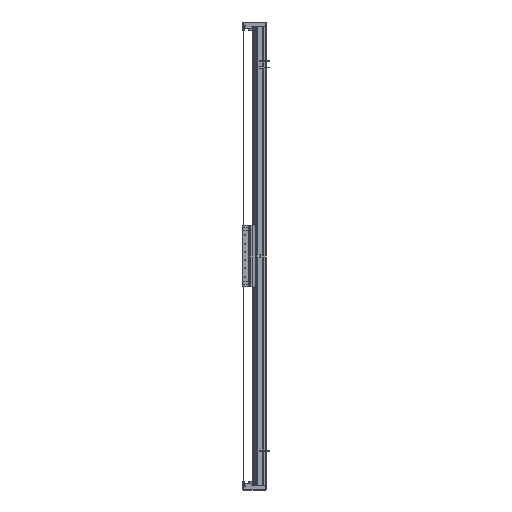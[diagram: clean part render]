
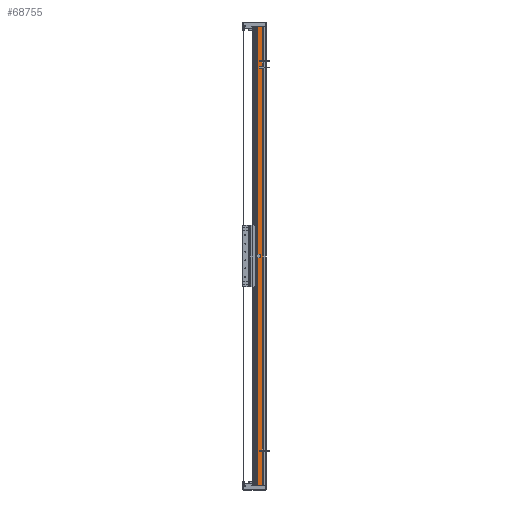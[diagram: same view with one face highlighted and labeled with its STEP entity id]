
A CAD part, left-side view. The second image highlights one B-rep face of the part: STEP entity #68755.
In plain terms, the highlighted planar face has unit normal (-1, 0, 0).
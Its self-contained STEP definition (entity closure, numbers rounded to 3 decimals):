
#4694 = DIRECTION ( 'NONE',  ( 0., 0., -1. ) ) ;
#5059 = VECTOR ( 'NONE', #4694, 1000. ) ;
#6083 = VERTEX_POINT ( 'NONE', #14591 ) ;
#7457 = ORIENTED_EDGE ( 'NONE', *, *, #74023, .T. ) ;
#8018 = CARTESIAN_POINT ( 'NONE',  ( -82.5, 36.95, -930. ) ) ;
#14591 = CARTESIAN_POINT ( 'NONE',  ( -82.5, 14.45, 930. ) ) ;
#15762 = DIRECTION ( 'NONE',  ( 0., -1., 0. ) ) ;
#16959 = AXIS2_PLACEMENT_3D ( 'NONE', #93908, #105316, #96399 ) ;
#23091 = VERTEX_POINT ( 'NONE', #64445 ) ;
#26306 = LINE ( 'NONE', #35792, #5059 ) ;
#30296 = ORIENTED_EDGE ( 'NONE', *, *, #32366, .F. ) ;
#32366 = EDGE_CURVE ( 'NONE', #23091, #6083, #64145, .T. ) ;
#35792 = CARTESIAN_POINT ( 'NONE',  ( -82.5, 14.45, 930. ) ) ;
#44415 = CARTESIAN_POINT ( 'NONE',  ( -82.5, 36.95, 930. ) ) ;
#46489 = ORIENTED_EDGE ( 'NONE', *, *, #71569, .F. ) ;
#49341 = DIRECTION ( 'NONE',  ( 0., 0., -1. ) ) ;
#56416 = CARTESIAN_POINT ( 'NONE',  ( -82.5, 36.95, -930. ) ) ;
#57587 = FACE_OUTER_BOUND ( 'NONE', #112636, .T. ) ;
#62735 = ORIENTED_EDGE ( 'NONE', *, *, #76460, .T. ) ;
#64145 = LINE ( 'NONE', #44415, #91119 ) ;
#64445 = CARTESIAN_POINT ( 'NONE',  ( -82.5, 36.95, 930. ) ) ;
#66536 = PLANE ( 'NONE',  #16959 ) ;
#68755 = ADVANCED_FACE ( 'NONE', ( #57587 ), #66536, .F. ) ;
#70761 = VECTOR ( 'NONE', #15762, 1000. ) ;
#71569 = EDGE_CURVE ( 'NONE', #6083, #111954, #26306, .T. ) ;
#74023 = EDGE_CURVE ( 'NONE', #23091, #79322, #86289, .T. ) ;
#76460 = EDGE_CURVE ( 'NONE', #79322, #111954, #103521, .T. ) ;
#79322 = VERTEX_POINT ( 'NONE', #8018 ) ;
#82602 = DIRECTION ( 'NONE',  ( 0., -1., 0. ) ) ;
#86289 = LINE ( 'NONE', #88170, #88846 ) ;
#88170 = CARTESIAN_POINT ( 'NONE',  ( -82.5, 36.95, 930. ) ) ;
#88846 = VECTOR ( 'NONE', #49341, 1000. ) ;
#91119 = VECTOR ( 'NONE', #82602, 1000. ) ;
#93908 = CARTESIAN_POINT ( 'NONE',  ( -82.5, 36.95, 930. ) ) ;
#96399 = DIRECTION ( 'NONE',  ( 0., 1., 0. ) ) ;
#103401 = CARTESIAN_POINT ( 'NONE',  ( -82.5, 14.45, -930. ) ) ;
#103521 = LINE ( 'NONE', #56416, #70761 ) ;
#105316 = DIRECTION ( 'NONE',  ( 1., 0., 0. ) ) ;
#111954 = VERTEX_POINT ( 'NONE', #103401 ) ;
#112636 = EDGE_LOOP ( 'NONE', ( #62735, #46489, #30296, #7457 ) ) ;
